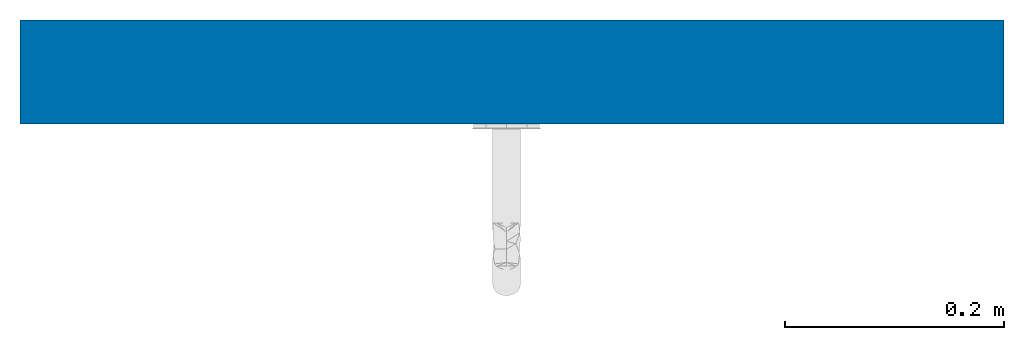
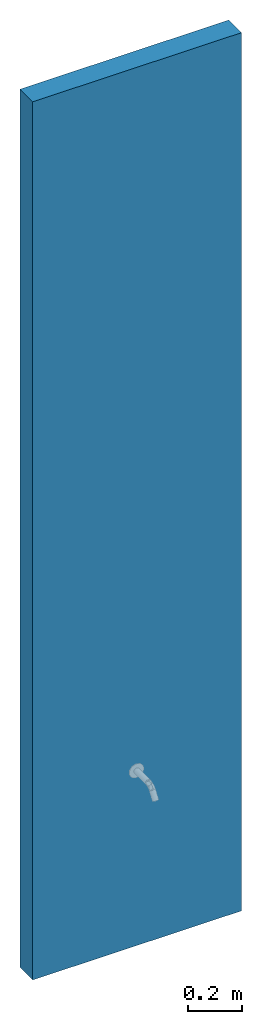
# One storey, incomplete: 1 wall.
"""IFC2X3 building model written with IfcOpenShell, lengths in millimetres."""

from ifc_helpers import new_model, entity, si_unit, converted_unit, derived_unit, direction, frame, frame_2d, origin, place, context, subcontext, project, spatial, rectangle, extrude, material, layer, layer_set, layer_usage, type_object, element, save


model = new_model("IFC2X3")

# Units and contexts
model_context = context("Model", 3, precision=0.01, world=origin(), true_north=direction((6.12303176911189e-17, 1.0)))
context_of_model = context(None, 3, precision=0.01, world=origin(), true_north=direction((6.12303176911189e-17, 1.0)))
body_context = subcontext(model_context, "Body", "Model", "MODEL_VIEW")
ifc_project = project(units=[si_unit("LENGTHUNIT", "METRE", prefix="MILLI"), si_unit("AREAUNIT", "SQUARE_METRE"), si_unit("VOLUMEUNIT", "CUBIC_METRE"), converted_unit("PLANEANGLEUNIT", "DEGREE", entity("IfcRatioMeasure", 0.0174532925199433), si_unit("PLANEANGLEUNIT", "RADIAN"), dimensions=[0, 0, 0, 0, 0, 0, 0]), si_unit("MASSUNIT", "GRAM", prefix="KILO"), si_unit("TIMEUNIT", "SECOND"), si_unit("FREQUENCYUNIT", "HERTZ"), si_unit("THERMODYNAMICTEMPERATUREUNIT", "DEGREE_CELSIUS"), derived_unit("THERMALTRANSMITTANCEUNIT", [(si_unit("MASSUNIT", "GRAM", prefix="KILO"), 1), (si_unit("THERMODYNAMICTEMPERATUREUNIT", "KELVIN"), -1), (si_unit("TIMEUNIT", "SECOND"), -3)]), derived_unit("VOLUMETRICFLOWRATEUNIT", [(si_unit("LENGTHUNIT", "METRE"), 3), (si_unit("TIMEUNIT", "SECOND"), -1)]), si_unit("ELECTRICCURRENTUNIT", "AMPERE"), si_unit("ELECTRICVOLTAGEUNIT", "VOLT"), si_unit("POWERUNIT", "WATT"), si_unit("FORCEUNIT", "NEWTON", prefix="KILO"), si_unit("ILLUMINANCEUNIT", "LUX"), si_unit("LUMINOUSFLUXUNIT", "LUMEN"), si_unit("LUMINOUSINTENSITYUNIT", "CANDELA"), si_unit("PRESSUREUNIT", "PASCAL")], contexts=[model_context, context_of_model])

# Site, building, storey
site_placement = place(None, origin())
site = spatial("IfcSite", under=ifc_project, at=site_placement, Name="Default", CompositionType="ELEMENT")
building_placement = place(site_placement, origin())
building = spatial("IfcBuilding", under=site, at=building_placement, CompositionType="ELEMENT")
storey_placement = place(building_placement, origin())
storey = spatial("IfcBuildingStorey", under=building, at=storey_placement, Name="Level 0", CompositionType="ELEMENT", Elevation=0.0)

# Wall
ifc_material_1 = material(Name="Plaster")
ifc_layer_1 = layer(ifc_material_1, 12.5)
ifc_material_2 = material(Name="Metal Stud Layer")
ifc_layer_2 = layer(ifc_material_2, 70.0)
ifc_layer_3 = layer(ifc_material_1, 12.5)
ifc_layer_set = layer_set([ifc_layer_1, ifc_layer_2, ifc_layer_3], Name="Basic Wall:Wall-Partn_12P-70MStd-12P")
ifc_layer_usage = layer_usage(ifc_layer_set, "AXIS2", "NEGATIVE", 47.5)
wall_type = type_object("IfcWallType", Name="Basic Wall:Wall-Partn_12P-70MStd-12P", PredefinedType="STANDARD", material=ifc_layer_set)
wall_placement = place(storey_placement, frame((3880.94298835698, 5790.27886266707, 0.0)))
element("IfcWallStandardCase", 1, at=wall_placement, inside=storey, type_object=wall_type, material=ifc_layer_usage, Name="Basic Wall:Wall-Partn_12P-70MStd-12P", ObjectType="Basic Wall:Wall-Partn_12P-70MStd-12P", context=body_context, shape_type="SweptSolid", body=[
    extrude(rectangle(XDim=900.0, YDim=95.0000000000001, at=frame_2d((450.0, 1.77635683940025e-13), x_axis=(-1.0, 0.0))), origin(), (0.0, 0.0, 1.0), 4000.0),
])

save(model, "model.ifc")
